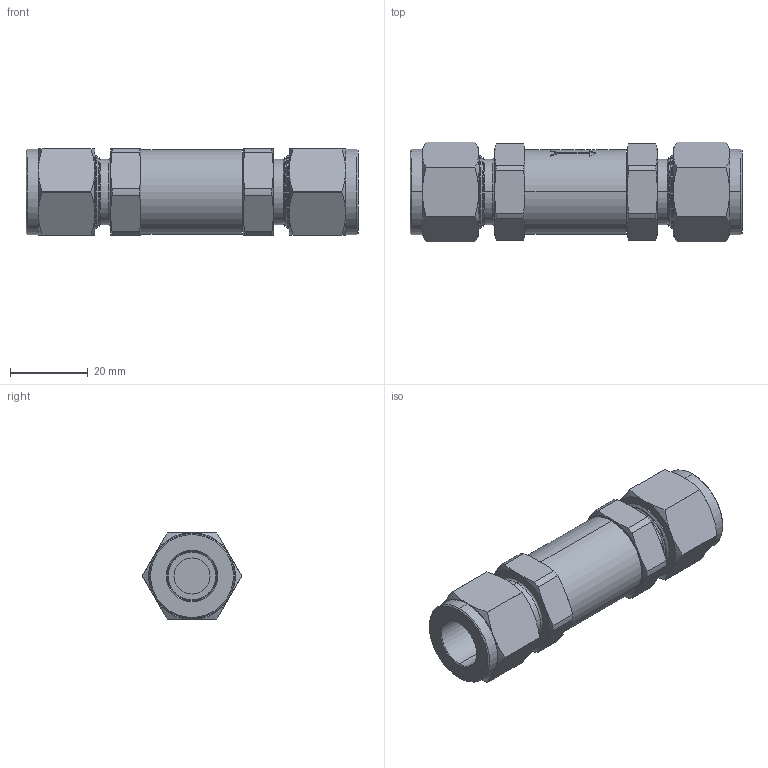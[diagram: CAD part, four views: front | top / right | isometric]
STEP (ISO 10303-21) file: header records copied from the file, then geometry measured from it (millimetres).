
FILE_DESCRIPTION (( 'STEP AP203' ), '1' );
FILE_NAME ('PCV-8T.STEP', '2019-07-23T16:13:26', ( '' ), ( '' ), 'SwSTEP 2.0', 'SolidWorks 2011', '' );
FILE_SCHEMA (( 'CONFIG_CONTROL_DESIGN' ));
Length unit declared in the file: inch
Products named in the file (2): PCV-8T; Part2^PCV-8T_CM
Assembly tree (1 placements, depth 2):
  PCV-8T
    Part2^PCV-8T_CM
Bounding box: 85.61 x 25.65 x 22.23 mm (x, y, z)
Volume: 26567.9 mm3; surface area: 10187.7 mm2
Topology: 1 solids, 1 shells, 405 faces, 1028 edges, 659 vertices
Faces by surface type: plane 168, cone 82, cylinder 79, bspline 70, torus 6
Entity records: 17005 total; most frequent: CARTESIAN_POINT 7643, ORIENTED_EDGE 2052, DIRECTION 1684, EDGE_CURVE 1026, VERTEX_POINT 659, AXIS2_PLACEMENT_3D 653, EDGE_LOOP 441, FACE_OUTER_BOUND 405
